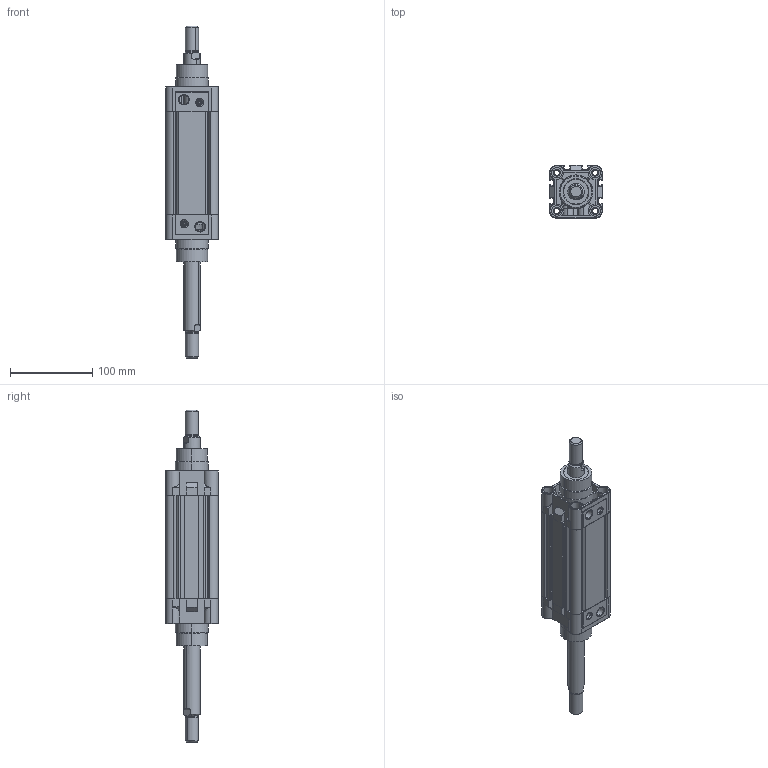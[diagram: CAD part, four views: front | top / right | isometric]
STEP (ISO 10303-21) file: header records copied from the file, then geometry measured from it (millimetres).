
FILE_DESCRIPTION (( 'STEP AP203' ), '1' );
FILE_NAME ('KDNC50X80CIFTMILLI-CYLINDER.STEP', '2016-03-19T08:06:11', ( 'user' ), ( '' ), 'SwSTEP 2.0', 'SolidWorks 2013', '' );
FILE_SCHEMA (( 'CONFIG_CONTROL_DESIGN' ));
Length unit declared in the file: millimetre
Products named in the file (6): KDNC50X80CIFTMILLI-CYLINDER; 烰 KAPAK  50; KDNC 50x80 BORU; ORTA PÝSTON 50 Çift Milli; Piston Mili 50x80; SAPLAMALI M尳 50x80
Assembly tree (6 placements, depth 2):
  KDNC50X80CIFTMILLI-CYLINDER
    烰 KAPAK  50  x2
    KDNC 50x80 BORU
    ORTA PÝSTON 50 Çift Milli
    Piston Mili 50x80
    SAPLAMALI M尳 50x80
Bounding box: 64 x 64.3 x 403.9 mm (x, y, z)
Volume: 537579.4 mm3; surface area: 208591 mm2
Topology: 13 solids, 13 shells, 863 faces, 2147 edges, 1387 vertices
Faces by surface type: cylinder 389, plane 350, cone 84, bspline 40
Entity records: 21741 total; most frequent: CARTESIAN_POINT 7617, ORIENTED_EDGE 2838, DIRECTION 2763, EDGE_CURVE 1419, AXIS2_PLACEMENT_3D 1013, VERTEX_POINT 919, LINE 737, VECTOR 737
